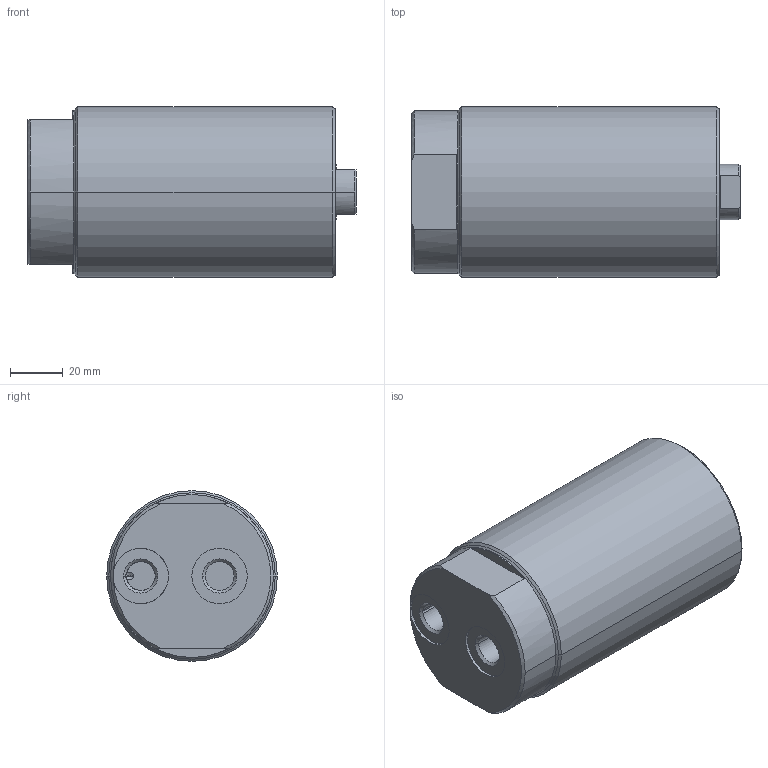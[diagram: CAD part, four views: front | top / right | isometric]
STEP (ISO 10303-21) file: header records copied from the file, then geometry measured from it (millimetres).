
FILE_DESCRIPTION((''),'2;1');
FILE_NAME('CDT-40502_ASM','2010-11-29T',('chad.steele'),(''),'PRO/ENGINEER BY PARAMETRIC TECHNOLOGY CORPORATION, 2010040','PRO/ENGINEER BY PARAMETRIC TECHNOLOGY CORPORATION, 2010040','');
FILE_SCHEMA(('CONFIG_CONTROL_DESIGN'));
Length unit declared in the file: millimetre
Products named in the file (4): DC6077030; DC6043044; DC6480040; CDT-40502_ASM
Assembly tree (3 placements, depth 2):
  CDT-40502_ASM
    DC6077030
    DC6043044
    DC6480040
Bounding box: 125 x 64.97 x 64.97 mm (x, y, z)
Volume: 335032 mm3; surface area: 85192.7 mm2
Topology: 3 solids, 9 shells, 165 faces, 372 edges, 216 vertices
Faces by surface type: cylinder 65, cone 48, plane 26, torus 26
Entity records: 4770 total; most frequent: DIRECTION 920, CARTESIAN_POINT 871, ORIENTED_EDGE 700, AXIS2_PLACEMENT_3D 396, EDGE_CURVE 362, CIRCLE 218, VERTEX_POINT 216, EDGE_LOOP 184
